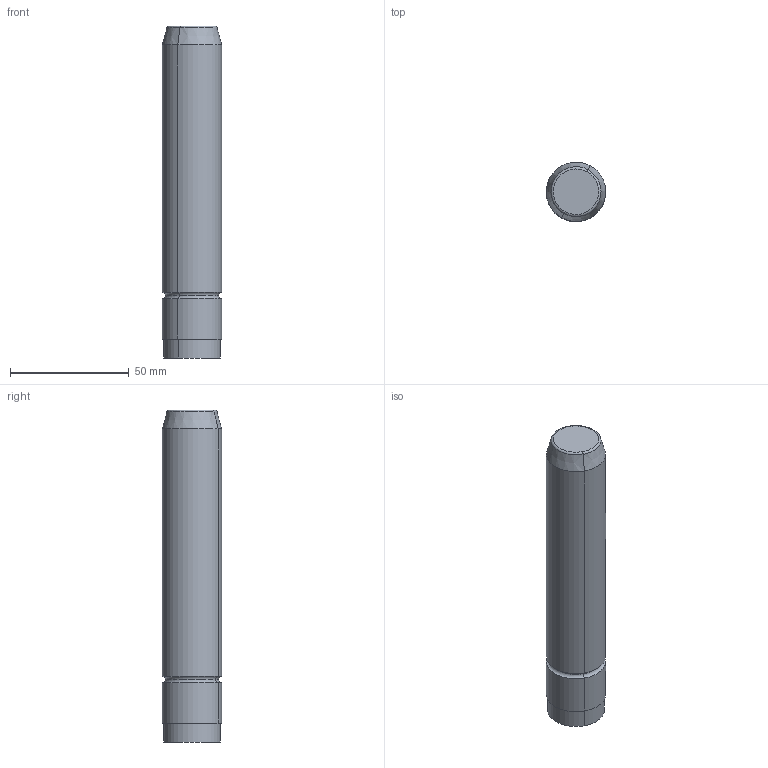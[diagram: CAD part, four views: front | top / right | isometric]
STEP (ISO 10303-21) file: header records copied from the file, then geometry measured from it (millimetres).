
FILE_DESCRIPTION(('CATIA V5 STEP Exchange'),'2;1');
FILE_NAME('C:\Users\Utente\Desktop\IO LAVORO\3D X SITO CF\X SITO\M104\M104-25x140.stp','2020-12-26T21:38:38+00:00',('none'),('none'),'CATIA Version 5 Release 20 GA (IN-10)','CATIA V5 STEP AP203','none');
FILE_SCHEMA(('CONFIG_CONTROL_DESIGN'));
Length unit declared in the file: millimetre
Products named in the file (1): M104-25x140
Bounding box: 24.99 x 24.99 x 140 mm (x, y, z)
Volume: 67557.7 mm3; surface area: 11847.8 mm2
Topology: 1 solids, 1 shells, 17 faces, 32 edges, 18 vertices
Faces by surface type: cylinder 6, torus 6, plane 3, cone 2
Entity records: 438 total; most frequent: CARTESIAN_POINT 66, ORIENTED_EDGE 64, DIRECTION 62, AXIS2_PLACEMENT_3D 40, EDGE_CURVE 32, CIRCLE 24, EDGE_LOOP 18, VERTEX_POINT 18
